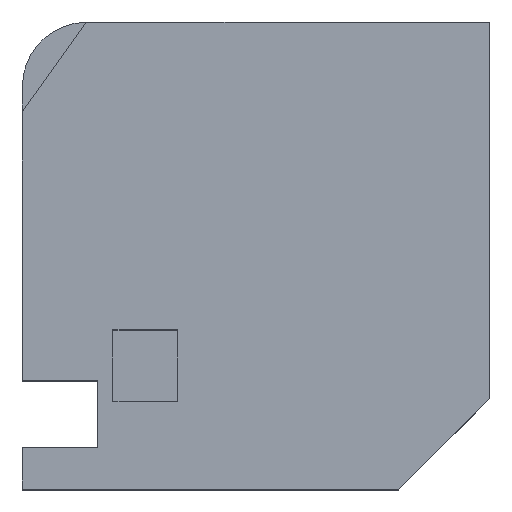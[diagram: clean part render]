
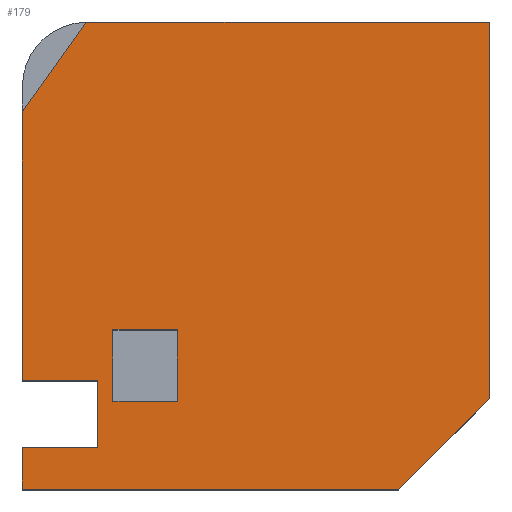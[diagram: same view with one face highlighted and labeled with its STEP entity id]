
A CAD part, top view. The second image highlights one B-rep face of the part: STEP entity #179.
In plain terms, the highlighted planar face has unit normal (0, 0, 1).
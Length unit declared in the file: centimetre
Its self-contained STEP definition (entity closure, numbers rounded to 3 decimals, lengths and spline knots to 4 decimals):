
#2 = VERTEX_POINT ( 'NONE', #718 ) ;
#25 = CARTESIAN_POINT ( 'NONE',  ( 0., 807.4873, 1000. ) ) ;
#31 = VECTOR ( 'NONE', #738, 100. ) ;
#40 = CARTESIAN_POINT ( 'NONE',  ( 0., 0., 1000. ) ) ;
#52 = VECTOR ( 'NONE', #958, 100. ) ;
#54 = VECTOR ( 'NONE', #840, 100. ) ;
#65 = EDGE_CURVE ( 'NONE', #483, #87, #133, .T. ) ;
#69 = DIRECTION ( 'NONE',  ( 1., 0., 0. ) ) ;
#84 = DIRECTION ( 'NONE',  ( 0., 0., 1. ) ) ;
#87 = VERTEX_POINT ( 'NONE', #1154 ) ;
#131 = CARTESIAN_POINT ( 'NONE',  ( 193.8619, 341.1244, 1000. ) ) ;
#132 = VECTOR ( 'NONE', #506, 100. ) ;
#133 = LINE ( 'NONE', #695, #1078 ) ;
#141 = CARTESIAN_POINT ( 'NONE',  ( 137.5968, 1000., 1000. ) ) ;
#150 = EDGE_LOOP ( 'NONE', ( #491, #547, #1076, #391 ) ) ;
#157 = LINE ( 'NONE', #905, #364 ) ;
#167 = DIRECTION ( 'NONE',  ( 0., 0., 1. ) ) ;
#179 = ADVANCED_FACE ( 'NONE', ( #791, #316 ), #1074, .T. ) ;
#180 = DIRECTION ( 'NONE',  ( 1., 0., 0. ) ) ;
#192 = ORIENTED_EDGE ( 'NONE', *, *, #65, .T. ) ;
#227 = LINE ( 'NONE', #604, #132 ) ;
#239 = VERTEX_POINT ( 'NONE', #437 ) ;
#244 = LINE ( 'NONE', #622, #1040 ) ;
#249 = AXIS2_PLACEMENT_3D ( 'NONE', #40, #167, #628 ) ;
#259 = LINE ( 'NONE', #916, #1131 ) ;
#268 = ORIENTED_EDGE ( 'NONE', *, *, #505, .F. ) ;
#272 = EDGE_CURVE ( 'NONE', #618, #766, #157, .T. ) ;
#278 = VERTEX_POINT ( 'NONE', #427 ) ;
#280 = ORIENTED_EDGE ( 'NONE', *, *, #822, .T. ) ;
#284 = VERTEX_POINT ( 'NONE', #141 ) ;
#298 = EDGE_CURVE ( 'NONE', #363, #766, #244, .T. ) ;
#303 = ORIENTED_EDGE ( 'NONE', *, *, #897, .T. ) ;
#305 = ORIENTED_EDGE ( 'NONE', *, *, #1150, .T. ) ;
#316 = FACE_BOUND ( 'NONE', #150, .T. ) ;
#328 = VECTOR ( 'NONE', #847, 100. ) ;
#353 = EDGE_CURVE ( 'NONE', #284, #2, #782, .T. ) ;
#358 = EDGE_CURVE ( 'NONE', #239, #1010, #934, .T. ) ;
#359 = DIRECTION ( 'NONE',  ( 1., 0., 0. ) ) ;
#363 = VERTEX_POINT ( 'NONE', #1026 ) ;
#364 = VECTOR ( 'NONE', #1195, 100. ) ;
#376 = CARTESIAN_POINT ( 'NONE',  ( 161.7947, 89.5858, 1000. ) ) ;
#383 = LINE ( 'NONE', #376, #328 ) ;
#391 = ORIENTED_EDGE ( 'NONE', *, *, #358, .F. ) ;
#404 = VECTOR ( 'NONE', #685, 100. ) ;
#411 = LINE ( 'NONE', #131, #603 ) ;
#421 = VERTEX_POINT ( 'NONE', #740 ) ;
#422 = DIRECTION ( 'NONE',  ( 0., -1., 0. ) ) ;
#424 = CARTESIAN_POINT ( 'NONE',  ( 161.7947, 89.5858, 1000. ) ) ;
#425 = DIRECTION ( 'NONE',  ( 0.707, 0.707, 0. ) ) ;
#427 = CARTESIAN_POINT ( 'NONE',  ( 805.0053, 0., 1000. ) ) ;
#437 = CARTESIAN_POINT ( 'NONE',  ( 193.8619, 188.1183, 1000. ) ) ;
#449 = CARTESIAN_POINT ( 'NONE',  ( 193.8619, 188.1183, 1000. ) ) ;
#461 = VERTEX_POINT ( 'NONE', #1145 ) ;
#468 = ORIENTED_EDGE ( 'NONE', *, *, #892, .F. ) ;
#474 = VERTEX_POINT ( 'NONE', #780 ) ;
#483 = VERTEX_POINT ( 'NONE', #1167 ) ;
#491 = ORIENTED_EDGE ( 'NONE', *, *, #930, .F. ) ;
#495 = ORIENTED_EDGE ( 'NONE', *, *, #353, .T. ) ;
#505 = EDGE_CURVE ( 'NONE', #363, #2, #858, .T. ) ;
#506 = DIRECTION ( 'NONE',  ( 0., 1., 0. ) ) ;
#544 = VECTOR ( 'NONE', #180, 100. ) ;
#547 = ORIENTED_EDGE ( 'NONE', *, *, #589, .F. ) ;
#583 = VECTOR ( 'NONE', #425, 100. ) ;
#585 = LINE ( 'NONE', #1055, #404 ) ;
#589 = EDGE_CURVE ( 'NONE', #421, #461, #411, .T. ) ;
#603 = VECTOR ( 'NONE', #873, 100. ) ;
#604 = CARTESIAN_POINT ( 'NONE',  ( 331.4801, 188.1183, 1000. ) ) ;
#611 = CARTESIAN_POINT ( 'NONE',  ( 161.7947, 233.1193, 1000. ) ) ;
#618 = VERTEX_POINT ( 'NONE', #611 ) ;
#622 = CARTESIAN_POINT ( 'NONE',  ( 0., 1000., 1000. ) ) ;
#628 = DIRECTION ( 'NONE',  ( 1., 0., 0. ) ) ;
#630 = VERTEX_POINT ( 'NONE', #424 ) ;
#644 = LINE ( 'NONE', #925, #54 ) ;
#666 = VECTOR ( 'NONE', #422, 100. ) ;
#685 = DIRECTION ( 'NONE',  ( 0., 1., 0. ) ) ;
#695 = CARTESIAN_POINT ( 'NONE',  ( 0., 1000., 1000. ) ) ;
#718 = CARTESIAN_POINT ( 'NONE',  ( 136.3753, 999.9946, 1000. ) ) ;
#738 = DIRECTION ( 'NONE',  ( 1., 0., 0. ) ) ;
#740 = CARTESIAN_POINT ( 'NONE',  ( 331.4801, 341.1244, 1000. ) ) ;
#741 = EDGE_CURVE ( 'NONE', #278, #1179, #893, .T. ) ;
#752 = ORIENTED_EDGE ( 'NONE', *, *, #741, .T. ) ;
#755 = CARTESIAN_POINT ( 'NONE',  ( 0., 89.5858, 1000. ) ) ;
#766 = VERTEX_POINT ( 'NONE', #1001 ) ;
#780 = CARTESIAN_POINT ( 'NONE',  ( 1000., 1000., 1000. ) ) ;
#782 = CIRCLE ( 'NONE', #844, 137.5968 ) ;
#791 = FACE_OUTER_BOUND ( 'NONE', #843, .T. ) ;
#802 = DIRECTION ( 'NONE',  ( 0., -1., 0. ) ) ;
#807 = ORIENTED_EDGE ( 'NONE', *, *, #298, .T. ) ;
#822 = EDGE_CURVE ( 'NONE', #87, #278, #259, .T. ) ;
#840 = DIRECTION ( 'NONE',  ( -1., 0., 0. ) ) ;
#843 = EDGE_LOOP ( 'NONE', ( #1146, #936, #468, #192, #280, #752, #305, #303, #495, #268, #807 ) ) ;
#844 = AXIS2_PLACEMENT_3D ( 'NONE', #920, #84, #359 ) ;
#847 = DIRECTION ( 'NONE',  ( 0., 1., 0. ) ) ;
#858 = LINE ( 'NONE', #25, #52 ) ;
#873 = DIRECTION ( 'NONE',  ( -1., 0., 0. ) ) ;
#892 = EDGE_CURVE ( 'NONE', #483, #630, #1024, .T. ) ;
#893 = LINE ( 'NONE', #1215, #583 ) ;
#897 = EDGE_CURVE ( 'NONE', #474, #284, #644, .T. ) ;
#905 = CARTESIAN_POINT ( 'NONE',  ( 0., 233.1193, 1000. ) ) ;
#908 = CARTESIAN_POINT ( 'NONE',  ( 331.4801, 188.1183, 1000. ) ) ;
#916 = CARTESIAN_POINT ( 'NONE',  ( 0., 0., 1000. ) ) ;
#920 = CARTESIAN_POINT ( 'NONE',  ( 137.5968, 862.4032, 1000. ) ) ;
#922 = CARTESIAN_POINT ( 'NONE',  ( 193.8619, 188.1183, 1000. ) ) ;
#925 = CARTESIAN_POINT ( 'NONE',  ( 0., 1000., 1000. ) ) ;
#930 = EDGE_CURVE ( 'NONE', #461, #239, #1199, .T. ) ;
#934 = LINE ( 'NONE', #449, #544 ) ;
#936 = ORIENTED_EDGE ( 'NONE', *, *, #1044, .F. ) ;
#958 = DIRECTION ( 'NONE',  ( 0.578, 0.816, 0. ) ) ;
#986 = EDGE_CURVE ( 'NONE', #1010, #421, #227, .T. ) ;
#1001 = CARTESIAN_POINT ( 'NONE',  ( 0., 233.1193, 1000. ) ) ;
#1002 = DIRECTION ( 'NONE',  ( 0., -1., 0. ) ) ;
#1010 = VERTEX_POINT ( 'NONE', #908 ) ;
#1024 = LINE ( 'NONE', #755, #31 ) ;
#1026 = CARTESIAN_POINT ( 'NONE',  ( 0., 807.4873, 1000. ) ) ;
#1040 = VECTOR ( 'NONE', #1002, 100. ) ;
#1044 = EDGE_CURVE ( 'NONE', #630, #618, #383, .T. ) ;
#1055 = CARTESIAN_POINT ( 'NONE',  ( 1000., 1000., 1000. ) ) ;
#1074 = PLANE ( 'NONE',  #249 ) ;
#1076 = ORIENTED_EDGE ( 'NONE', *, *, #986, .F. ) ;
#1078 = VECTOR ( 'NONE', #802, 100. ) ;
#1131 = VECTOR ( 'NONE', #69, 100. ) ;
#1145 = CARTESIAN_POINT ( 'NONE',  ( 193.8619, 341.1244, 1000. ) ) ;
#1146 = ORIENTED_EDGE ( 'NONE', *, *, #272, .F. ) ;
#1150 = EDGE_CURVE ( 'NONE', #1179, #474, #585, .T. ) ;
#1154 = CARTESIAN_POINT ( 'NONE',  ( 0., 0., 1000. ) ) ;
#1167 = CARTESIAN_POINT ( 'NONE',  ( 0., 89.5858, 1000. ) ) ;
#1169 = CARTESIAN_POINT ( 'NONE',  ( 1000., 194.9947, 1000. ) ) ;
#1179 = VERTEX_POINT ( 'NONE', #1169 ) ;
#1195 = DIRECTION ( 'NONE',  ( -1., 0., 0. ) ) ;
#1199 = LINE ( 'NONE', #922, #666 ) ;
#1215 = CARTESIAN_POINT ( 'NONE',  ( 402.5027, -402.5027, 1000. ) ) ;
